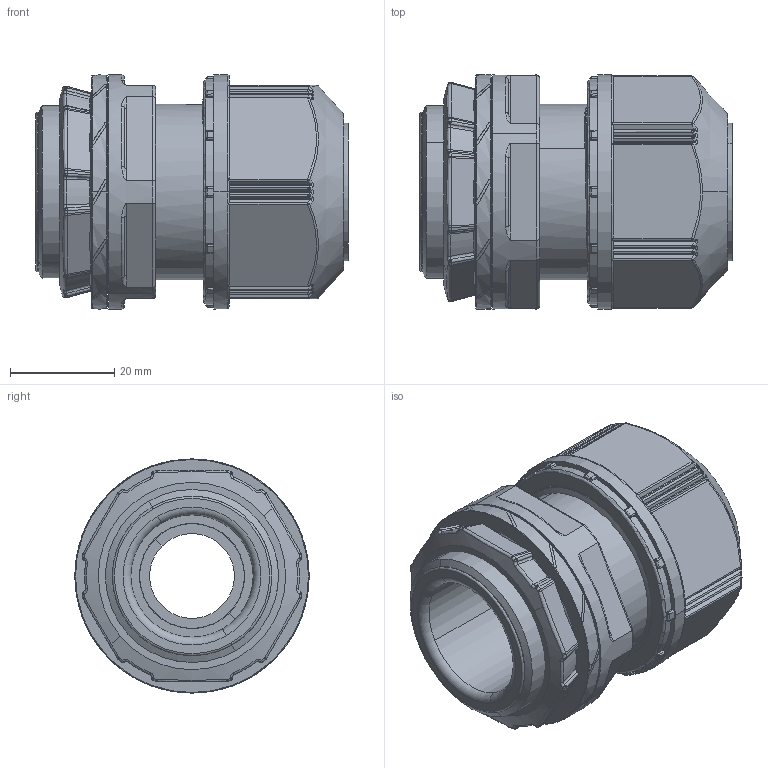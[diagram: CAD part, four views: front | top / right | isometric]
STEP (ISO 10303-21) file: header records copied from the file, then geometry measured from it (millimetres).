
FILE_DESCRIPTION(('Creo Elements/Direct Modeling STEP Export'),'2;1');
FILE_NAME('H17-0012-CL901-00_OA-W28-2001RS.stp','2017-12-07T16:37:05',(''),(''),'Creo Elements/Direct Modeling STEP processor for AP214 (Solid Model)','Creo Elements/Direct Modeling 20.0B 07-Aug-2017 (C) Parametric Technology GmbH','');
FILE_SCHEMA(('AUTOMOTIVE_DESIGN { 1 0 10303 214 1 1 1 1 }'));
Length unit declared in the file: millimetre
Products named in the file (6): Locknut; Rubber Bushing B; Rubber Bushing A; Kikuza O Ring; Nipple_etc; OA-W28-2001RS
Assembly tree (5 placements, depth 2):
  OA-W28-2001RS
    Nipple_etc
    Kikuza O Ring
    Rubber Bushing A
    Rubber Bushing B
    Locknut
Bounding box: 60 x 45 x 45 mm (x, y, z)
Volume: 54624.2 mm3; surface area: 28523 mm2
Topology: 5 solids, 5 shells, 827 faces, 2102 edges, 1293 vertices
Faces by surface type: bspline 396, cylinder 162, plane 157, torus 68, cone 44
Full cylindrical faces by diameter (mm): 20.1 x1, 20.2 x1, 26.5 x2, 28.5 x1
Entity records: 52253 total; most frequent: CARTESIAN_POINT 36436, ORIENTED_EDGE 4204, EDGE_CURVE 2102, DIRECTION 1538, VERTEX_POINT 1293, B_SPLINE_CURVE_WITH_KNOTS 1062, EDGE_LOOP 841, FACE_OUTER_BOUND 827
